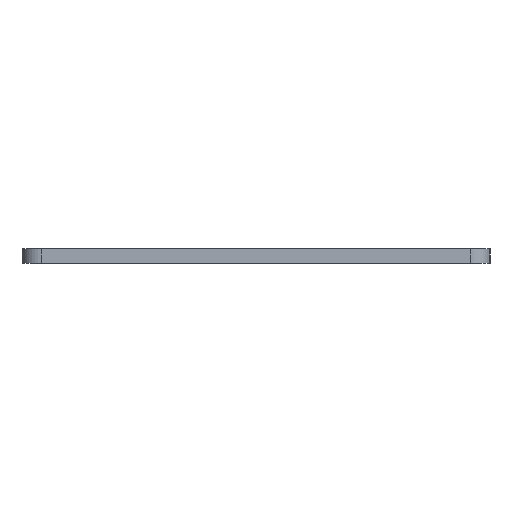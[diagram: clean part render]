
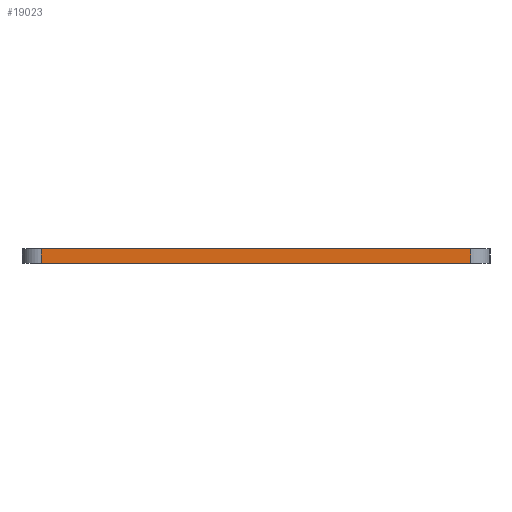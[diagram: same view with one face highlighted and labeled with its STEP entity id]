
A CAD part, left-side view. The second image highlights one B-rep face of the part: STEP entity #19023.
In plain terms, the highlighted planar face has unit normal (-1, 0, 0).
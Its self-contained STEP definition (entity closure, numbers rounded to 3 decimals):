
#743=PLANE('',#19584);
#1748=FACE_OUTER_BOUND('',#2856,.T.);
#2856=EDGE_LOOP('',(#17288,#17289,#17290,#17291));
#4458=LINE('',#37500,#6041);
#4463=LINE('',#37567,#6046);
#4464=LINE('',#37570,#6047);
#4465=LINE('',#37571,#6048);
#6041=VECTOR('',#22056,10.);
#6046=VECTOR('',#22125,10.);
#6047=VECTOR('',#22128,10.);
#6048=VECTOR('',#22129,10.);
#9019=VERTEX_POINT('',#37497);
#9020=VERTEX_POINT('',#37499);
#9050=VERTEX_POINT('',#37565);
#9051=VERTEX_POINT('',#37569);
#11773=EDGE_CURVE('',#9020,#9019,#4458,.T.);
#11807=EDGE_CURVE('',#9020,#9050,#4463,.T.);
#11808=EDGE_CURVE('',#9051,#9019,#4464,.T.);
#11809=EDGE_CURVE('',#9050,#9051,#4465,.T.);
#17288=ORIENTED_EDGE('',*,*,#11807,.F.);
#17289=ORIENTED_EDGE('',*,*,#11773,.T.);
#17290=ORIENTED_EDGE('',*,*,#11808,.F.);
#17291=ORIENTED_EDGE('',*,*,#11809,.F.);
#19023=ADVANCED_FACE('',(#1748),#743,.T.);
#19584=AXIS2_PLACEMENT_3D('',#37568,#22126,#22127);
#22056=DIRECTION('',(0.,1.,0.));
#22125=DIRECTION('',(0.,0.,-1.));
#22126=DIRECTION('center_axis',(-1.,0.,0.));
#22127=DIRECTION('ref_axis',(0.,1.,0.));
#22128=DIRECTION('',(0.,0.,1.));
#22129=DIRECTION('',(0.,1.,0.));
#37497=CARTESIAN_POINT('',(-20.,15.,0.));
#37499=CARTESIAN_POINT('',(-20.,-74.,0.));
#37500=CARTESIAN_POINT('',(-20.,-78.,0.));
#37565=CARTESIAN_POINT('',(-20.,-74.,-3.));
#37567=CARTESIAN_POINT('',(-20.,-74.,0.));
#37568=CARTESIAN_POINT('Origin',(-20.,-78.,0.));
#37569=CARTESIAN_POINT('',(-20.,15.,-3.));
#37570=CARTESIAN_POINT('',(-20.,15.,0.));
#37571=CARTESIAN_POINT('',(-20.,-78.,-3.));
